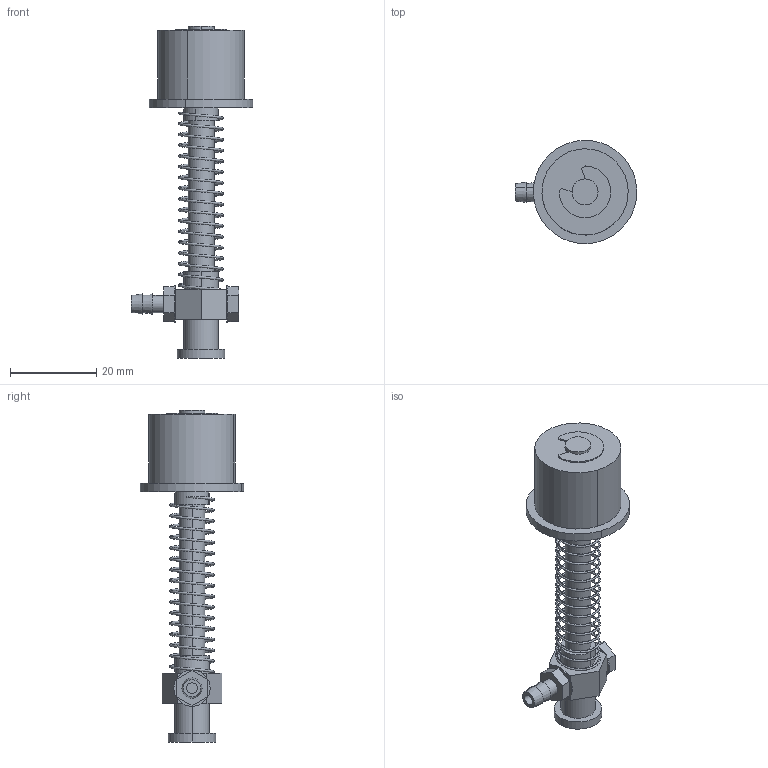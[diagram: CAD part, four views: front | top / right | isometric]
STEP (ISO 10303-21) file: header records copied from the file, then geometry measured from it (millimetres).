
FILE_DESCRIPTION (( 'STEP AP214' ), '1' );
FILE_NAME ('VFM-3020.STEP', '2019-11-16T02:19:54', ( '微软用户' ), ( '微软中国' ), 'SwSTEP 2.0', 'SolidWorks 2016', '' );
FILE_SCHEMA (( 'AUTOMOTIVE_DESIGN' ));
Length unit declared in the file: millimetre
Products named in the file (1): VFM-3020
Bounding box: 28.19 x 23.98 x 77 mm (x, y, z)
Volume: 8983.6 mm3; surface area: 6604.3 mm2
Topology: 9 solids, 9 shells, 140 faces, 329 edges, 217 vertices
Faces by surface type: cylinder 72, plane 56, cone 6, bspline 6
Entity records: 12244 total; most frequent: CARTESIAN_POINT 7456, ORIENTED_EDGE 654, DIRECTION 625, EDGE_CURVE 327, AXIS2_PLACEMENT_3D 237, VERTEX_POINT 217, EDGE_LOOP 164, VECTOR 151
